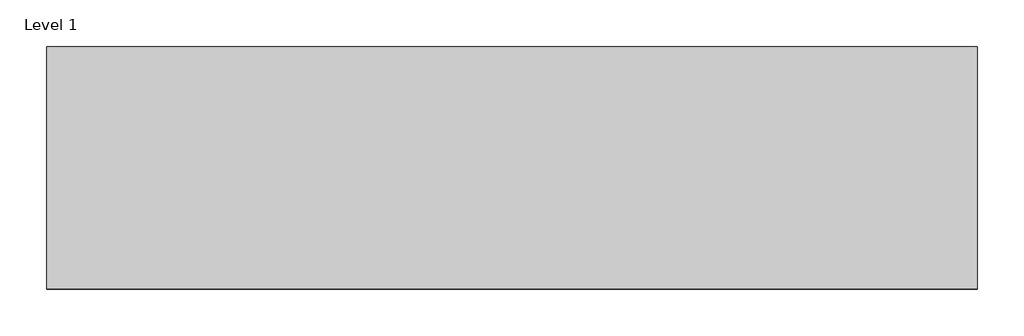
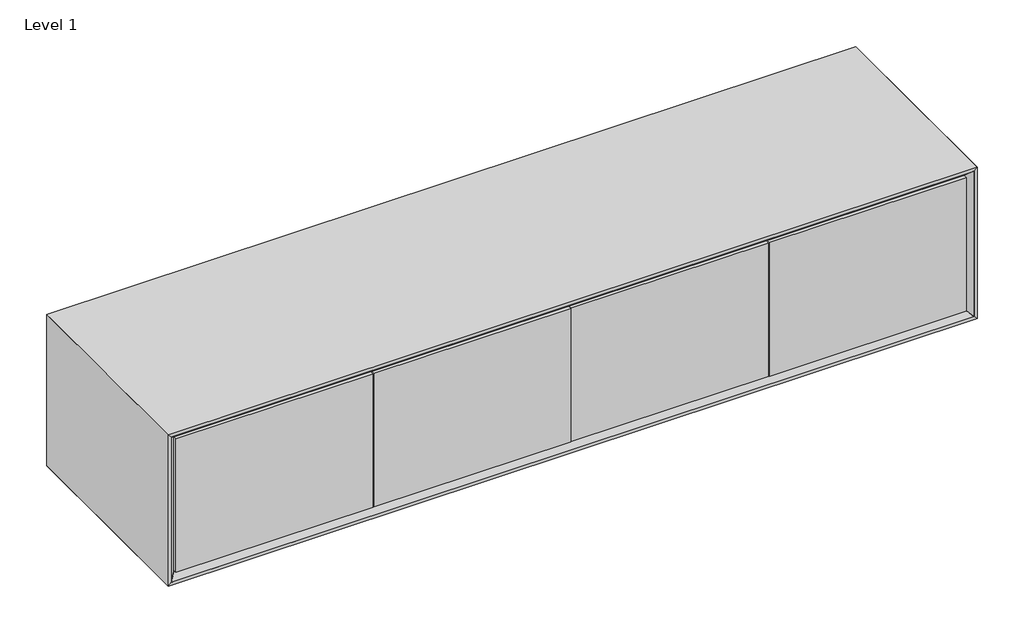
# One storey, incomplete: 1 proxy.
"""IFC4 building model written with IfcOpenShell, lengths in millimetres."""

from ifc_helpers import new_model, si_unit, origin, place, context, project, spatial, transform, mapped, element, save
from components import generic_models_41df0317

model = new_model("IFC4")

# Units and contexts
model_context = context("Model", 3, world=origin())
ifc_project = project(units=[si_unit("LENGTHUNIT", "METRE", prefix="MILLI")], contexts=[model_context])

# Site, building, storey
site = spatial("IfcSite", under=ifc_project)
building = spatial("IfcBuilding", under=site)
storey = spatial("IfcBuildingStorey", under=building, Name="Level 1", Elevation=0.0)

# Proxy
placement = place(None, origin())
generic_models_shape = generic_models_41df0317(model_context)
element("IfcBuildingElementProxy", 1, Name="AERO^STANDARD CREDENZA_19H WALL HUNG-PARTS SOLID", ObjectType="AERO^STANDARD CREDENZA_19H WALL HUNG-PARTS SOLID", at=placement, inside=storey, context=model_context, shape_type="MappedRepresentation", body=[
    mapped(generic_models_shape, transform((0.0, 0.0, 0.0), x_axis=(1.0, 0.0, 0.0), y_axis=(0.0, 0.0, 1.0), z_axis=(0.0, -1.0, 0.0))),
])

save(model, "model.ifc")
